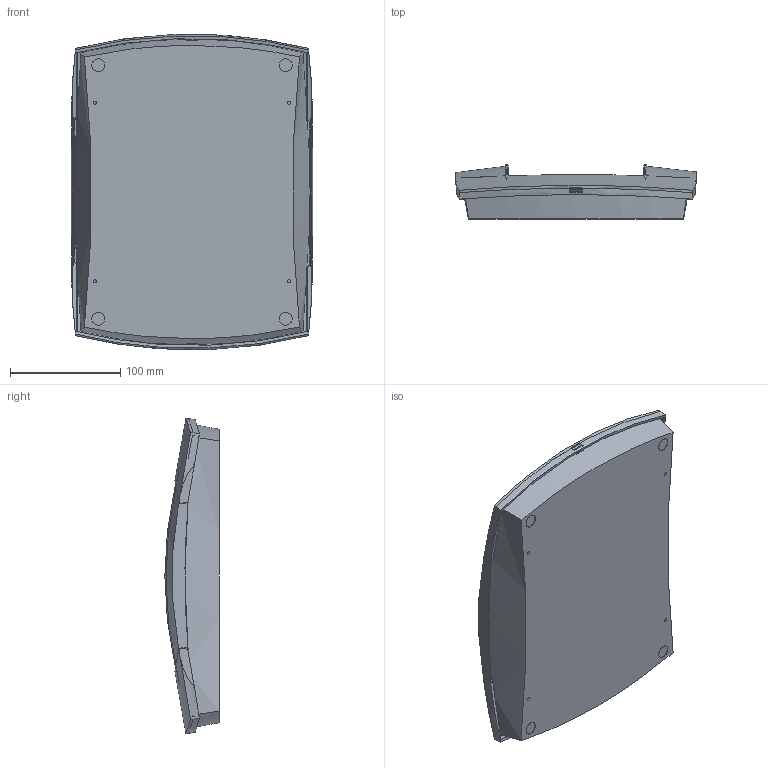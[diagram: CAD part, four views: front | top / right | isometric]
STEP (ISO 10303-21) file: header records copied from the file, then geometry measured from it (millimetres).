
FILE_DESCRIPTION (( 'STEP AP214' ), '1' );
FILE_NAME ('Conjunt PP104.STEP', '2017-11-24T15:22:35', ( 'aaa' ), ( '' ), 'SwSTEP 2.0', 'SolidWorks 2013', '' );
FILE_SCHEMA (( 'AUTOMOTIVE_DESIGN' ));
Length unit declared in the file: millimetre
Products named in the file (6): Cargol 2,9x 6,5 PP104; Cargol 2,9x 19 PP104; Lateral PP104; Tapa central PP104; Base PP104; Conjunt PP104
Assembly tree (12 placements, depth 2):
  Conjunt PP104
    Base PP104
    Tapa central PP104
    Lateral PP104  x2
    Cargol 2,9x 19 PP104  x4
    Cargol 2,9x 6,5 PP104  x4
Bounding box: 219.11 x 49.2 x 286 mm (x, y, z)
Volume: 455156.1 mm3; surface area: 308106.2 mm2
Topology: 12 solids, 12 shells, 1460 faces, 3270 edges, 1878 vertices
Faces by surface type: cone 808, plane 395, cylinder 191, bspline 52, torus 14
Entity records: 21925 total; most frequent: CARTESIAN_POINT 5793, DIRECTION 3307, ORIENTED_EDGE 3294, EDGE_CURVE 1647, AXIS2_PLACEMENT_3D 1244, VERTEX_POINT 1014, VECTOR 819, LINE 819
